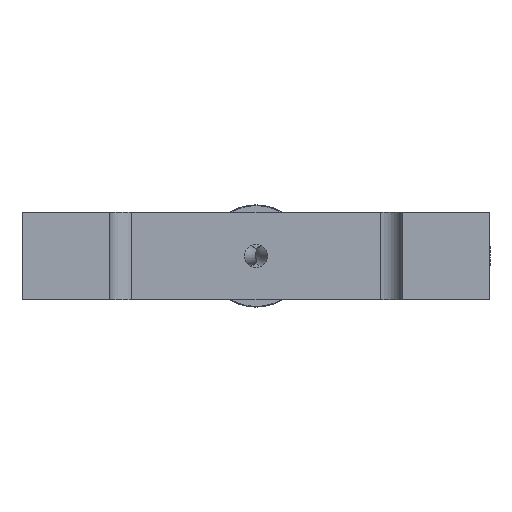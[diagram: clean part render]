
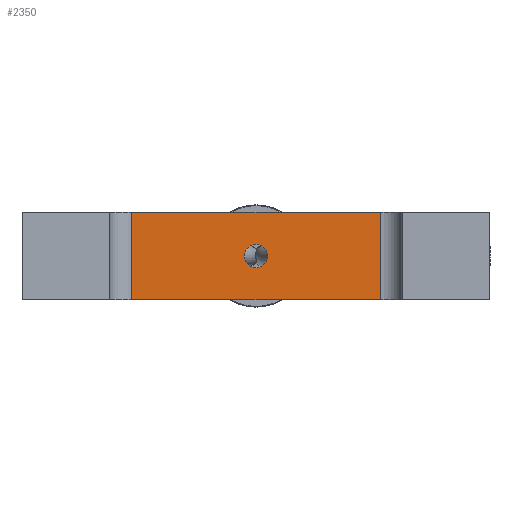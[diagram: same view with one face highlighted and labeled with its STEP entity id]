
A CAD part, left-side view. The second image highlights one B-rep face of the part: STEP entity #2350.
In plain terms, the highlighted planar face has unit normal (-1, 0, 0).
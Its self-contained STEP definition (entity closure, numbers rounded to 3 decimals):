
#112=LINE($,#4257,#200);
#114=LINE($,#4263,#202);
#115=LINE($,#4265,#203);
#116=LINE($,#4266,#204);
#200=VECTOR($,#3333,12.);
#202=VECTOR($,#3339,34.);
#203=VECTOR($,#3340,12.);
#204=VECTOR($,#3341,34.);
#307=PLANE($,#2666);
#402=FACE_BOUND($,#790,.T.);
#403=FACE_BOUND($,#791,.T.);
#790=EDGE_LOOP($,(#1908));
#791=EDGE_LOOP($,(#1909,#1910,#1911,#1912));
#958=CIRCLE($,#2655,1.6);
#1146=VERTEX_POINT($,#4238);
#1153=VERTEX_POINT($,#4254);
#1154=VERTEX_POINT($,#4256);
#1156=VERTEX_POINT($,#4262);
#1157=VERTEX_POINT($,#4264);
#1404=EDGE_CURVE($,#1146,#1146,#958,.T.);
#1411=EDGE_CURVE($,#1153,#1154,#112,.T.);
#1414=EDGE_CURVE($,#1153,#1156,#114,.T.);
#1415=EDGE_CURVE($,#1157,#1156,#115,.T.);
#1416=EDGE_CURVE($,#1157,#1154,#116,.T.);
#1908=ORIENTED_EDGE($,*,*,#1404,.T.);
#1909=ORIENTED_EDGE($,*,*,#1411,.F.);
#1910=ORIENTED_EDGE($,*,*,#1414,.T.);
#1911=ORIENTED_EDGE($,*,*,#1415,.F.);
#1912=ORIENTED_EDGE($,*,*,#1416,.T.);
#2350=ADVANCED_FACE($,(#402,#403),#307,.T.);
#2655=AXIS2_PLACEMENT_3D($,#4239,#3313,#3314);
#2666=AXIS2_PLACEMENT_3D($,#4261,#3337,#3338);
#3313=DIRECTION('center_axis',(1.,0.,0.));
#3314=DIRECTION('ref_axis',(0.,0.,-1.));
#3333=DIRECTION($,(0.,0.,1.));
#3337=DIRECTION('center_axis',(-1.,0.,0.));
#3338=DIRECTION('ref_axis',(0.,0.,1.));
#3339=DIRECTION($,(0.,-1.,0.));
#3340=DIRECTION($,(0.,0.,-1.));
#3341=DIRECTION($,(0.,1.,0.));
#4238=CARTESIAN_POINT('',(27.,0.,7.6));
#4239=CARTESIAN_POINT('Origin',(27.,0.,6.));
#4254=CARTESIAN_POINT('',(27.,17.,0.));
#4256=CARTESIAN_POINT('',(27.,17.,12.));
#4257=CARTESIAN_POINT($,(27.,17.,0.));
#4261=CARTESIAN_POINT('Origin',(27.,-20.,0.));
#4262=CARTESIAN_POINT('',(27.,-17.,0.));
#4263=CARTESIAN_POINT($,(27.,20.,0.));
#4264=CARTESIAN_POINT('',(27.,-17.,12.));
#4265=CARTESIAN_POINT($,(27.,-17.,0.));
#4266=CARTESIAN_POINT($,(27.,20.,12.));
